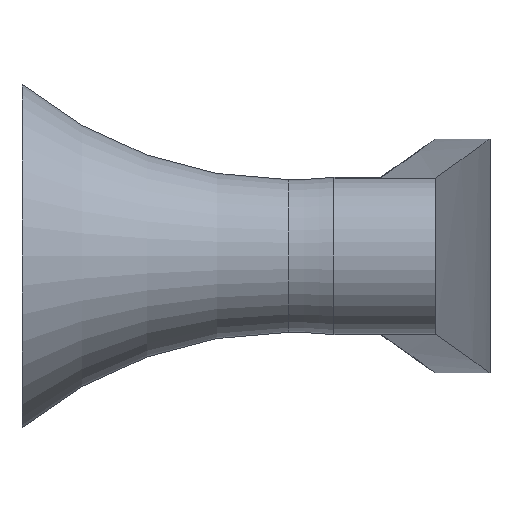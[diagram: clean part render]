
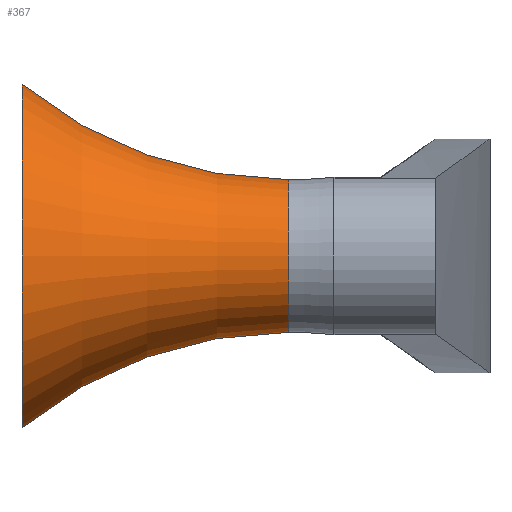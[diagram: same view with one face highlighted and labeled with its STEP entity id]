
A CAD part, left-side view. The second image highlights one B-rep face of the part: STEP entity #367.
In plain terms, the highlighted toroidal (fillet/blend) face has major radius 31.894 mm and minor radius 27 mm.
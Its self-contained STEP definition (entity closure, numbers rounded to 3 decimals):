
#203 = EDGE_CURVE( '', #207, #381, #526, .T. );
#207 = VERTEX_POINT( '', #531 );
#219 = EDGE_CURVE( '', #335, #381, #544, .T. );
#335 = VERTEX_POINT( '', #670 );
#359 = EDGE_CURVE( '', #335, #373, #697, .T. );
#367 = ADVANCED_FACE( '', ( #706 ), #707, .F. );
#373 = VERTEX_POINT( '', #713 );
#377 = EDGE_CURVE( '', #207, #373, #717, .T. );
#381 = VERTEX_POINT( '', #722 );
#526 = CIRCLE( '', #873, 11. );
#531 = CARTESIAN_POINT( '', ( 0., 0., 11. ) );
#544 = CIRCLE( '', #907, 27. );
#670 = CARTESIAN_POINT( '', ( 0., -17.101, -4.894 ) );
#697 = CIRCLE( '', #1205, 4.894 );
#706 = FACE_OUTER_BOUND( '', #1216, .T. );
#707 = TOROIDAL_SURFACE( '', #1217, 31.894, 27. );
#713 = CARTESIAN_POINT( '', ( 0., -17.101, 4.894 ) );
#717 = CIRCLE( '', #1231, 27. );
#722 = CARTESIAN_POINT( '', ( 0., 0., -11. ) );
#873 = AXIS2_PLACEMENT_3D( '', #1461, #1462, #1463 );
#907 = AXIS2_PLACEMENT_3D( '', #1485, #1486, #1487 );
#1205 = AXIS2_PLACEMENT_3D( '', #1663, #1664, #1665 );
#1216 = EDGE_LOOP( '', ( #1676, #1677, #1678, #1679 ) );
#1217 = AXIS2_PLACEMENT_3D( '', #1680, #1681, #1682 );
#1231 = AXIS2_PLACEMENT_3D( '', #1692, #1693, #1694 );
#1461 = CARTESIAN_POINT( '', ( 0., 0., 0. ) );
#1462 = DIRECTION( '', ( 0., -1., 0. ) );
#1463 = DIRECTION( '', ( 0., 0., 1. ) );
#1485 = CARTESIAN_POINT( '', ( 0., -17.101, -31.894 ) );
#1486 = DIRECTION( '', ( -1., 0., 0. ) );
#1487 = DIRECTION( '', ( 0., 0., -1. ) );
#1663 = CARTESIAN_POINT( '', ( 0., -17.101, 0. ) );
#1664 = DIRECTION( '', ( 0., 1., 0. ) );
#1665 = DIRECTION( '', ( 0., 0., -1. ) );
#1676 = ORIENTED_EDGE( '', *, *, #359, .T. );
#1677 = ORIENTED_EDGE( '', *, *, #377, .F. );
#1678 = ORIENTED_EDGE( '', *, *, #203, .T. );
#1679 = ORIENTED_EDGE( '', *, *, #219, .F. );
#1680 = CARTESIAN_POINT( '', ( 0., -17.101, 0. ) );
#1681 = DIRECTION( '', ( 0., -1., 0. ) );
#1682 = DIRECTION( '', ( 0., 0., -1. ) );
#1692 = CARTESIAN_POINT( '', ( 0., -17.101, 31.894 ) );
#1693 = DIRECTION( '', ( -1., 0., 0. ) );
#1694 = DIRECTION( '', ( 0., 0., 1. ) );
